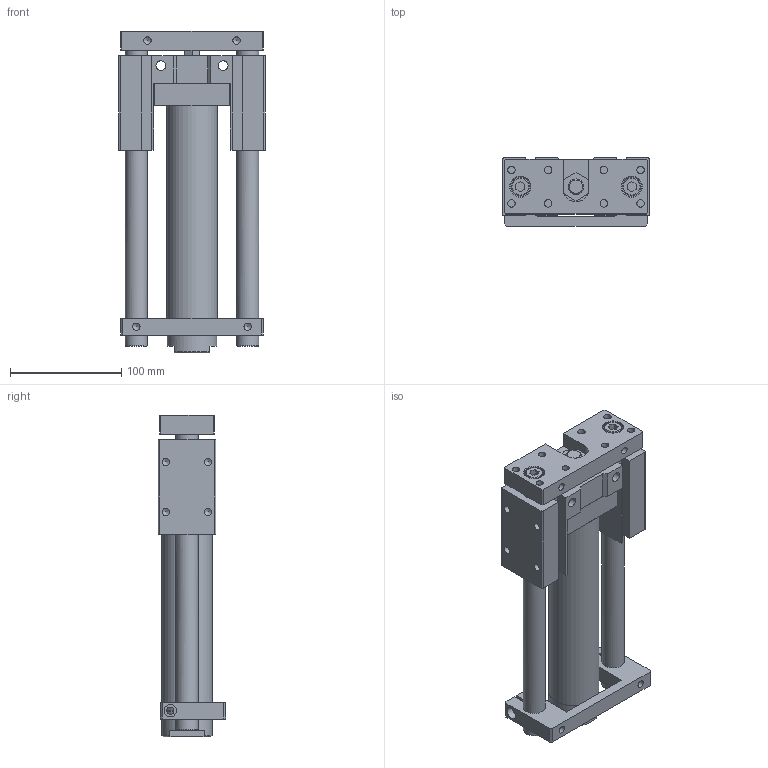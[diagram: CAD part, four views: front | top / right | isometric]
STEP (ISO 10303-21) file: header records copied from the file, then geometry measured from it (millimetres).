
FILE_DESCRIPTION((''),'2;1');
FILE_NAME('I:\3D電子目錄\氣缸\TMB(U)\TMB(U)\TMB(U)40\TMB(U)40x150.stp','2007-10-05T11:43:49',('Administrator'),(''),'Autodesk Inventor 11','Autodesk Inventor 11','');
FILE_SCHEMA(('AUTOMOTIVE_DESIGN { 1 0 10303 214 1 1 1 1 }'));
Length unit declared in the file: millimetre
Products named in the file (1): TMB(U)40
Bounding box: 132 x 61 x 289 mm (x, y, z)
Volume: 985956.5 mm3; surface area: 151460.8 mm2
Topology: 1 solids, 1 shells, 201 faces, 524 edges, 344 vertices
Faces by surface type: plane 118, bspline 41, cylinder 23, cone 17, torus 2
Full cylindrical faces by diameter (mm): 6.5 x2, 6.647 x6, 11 x1, 14 x1, 16 x2, 18 x2, 20 x2, 45 x2
Entity records: 6100 total; most frequent: CARTESIAN_POINT 1571, DIRECTION 870, ORIENTED_EDGE 858, EDGE_CURVE 429, EDGE_LOOP 324, VERTEX_POINT 319, VECTOR 302, LINE 302
